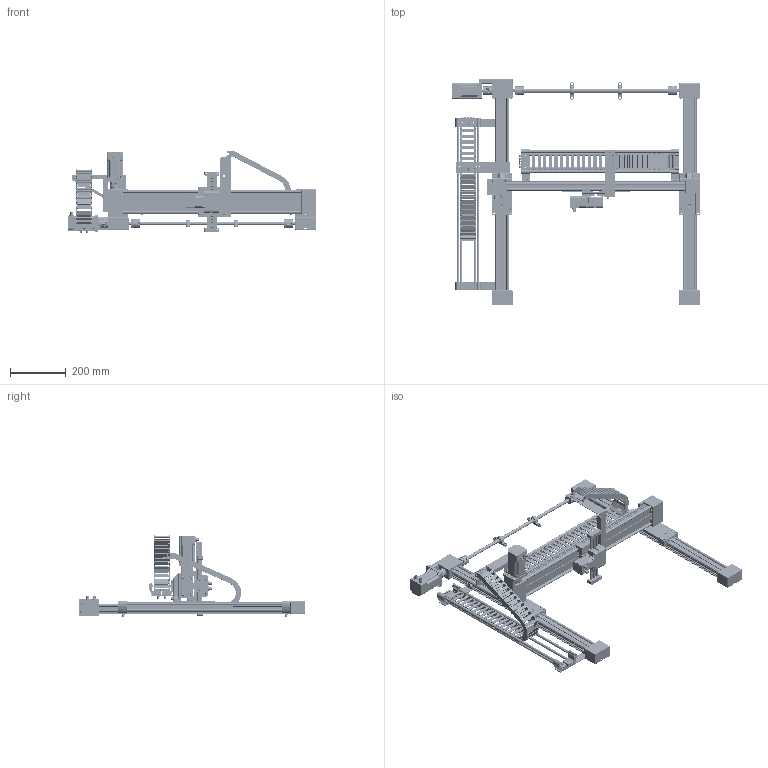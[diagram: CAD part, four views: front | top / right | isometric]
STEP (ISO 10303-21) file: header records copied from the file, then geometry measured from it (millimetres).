
FILE_DESCRIPTION(/* description */ (''),/* implementation_level */ '2;1');
FILE_NAME(/* name */ 'C:\Users\CKoch\OneDrive - igus GmbH\Christoph Koch\Produktmanagement\LCA_Portale\PACKS\vereinfachte Steps\PACK.DLE.RG.0001.500.500.100_e-ketten_vereinfacht.stp',/* time_stamp */ '2023-05-05T15:28:46+02:00',/* author */ ('ckoch'),/* organization */ (''),/* preprocessor_version */ 'ST-DEVELOPER v18.1',/* originating_system */ 'Autodesk Inventor 2022',/* authorisation */ '');
FILE_SCHEMA (('AUTOMOTIVE_DESIGN { 1 0 10303 214 3 1 1 }'));
Products named in the file (15): PACK.DLE.RG.0001.500.500.100_e-ketten_vereinfacht; D00465203; Dummy_9TT.2.1; Dummy_920.148.TT.021_tube-trough_ X-Mitnehmer; D00036878.ipt; D00036729.ipt; Dummy_9TT.1.1.H.SLS_E2i.15.50; Dummy_9TT.1.1.FP.SLS_E2i.15.50; D00465186.ipt; Dummy_9TT.1.2.FP.SLS_E2i.15.50; Dummy_9TT.1.2.H.SLS_E2i.15.50; D00465188.ipt; Dummy_9TT.3.1; Dummy_E2i_15_50_048_0_X-Achse_DLE-RG-0001-500-500-100; Dummy_E2i_15_50_048_0_Y-Achse_DLE-RG-0001-500-500-100
Assembly tree (22 placements, depth 3):
  PACK.DLE.RG.0001.500.500.100_e-ketten_vereinfacht
    D00465203
    Dummy_9TT.2.1
      Dummy_920.148.TT.021_tube-trough_ X-Mitnehmer
      D00036878.ipt  x2
      D00036729.ipt  x2
    Dummy_9TT.1.1.H.SLS_E2i.15.50
    Dummy_9TT.1.1.FP.SLS_E2i.15.50
    D00465186.ipt  x4
    Dummy_9TT.1.2.FP.SLS_E2i.15.50
    Dummy_9TT.1.2.H.SLS_E2i.15.50
    D00465188.ipt  x4
    Dummy_9TT.3.1
    Dummy_E2i_15_50_048_0_X-Achse_DLE-RG-0001-500-500-100
    Dummy_E2i_15_50_048_0_Y-Achse_DLE-RG-0001-500-500-100
Bounding box: 890 x 811.5 x 292.8 mm (x, y, z)
Volume: 4479292 mm3; surface area: 3127369.4 mm2
Topology: 429 solids, 444 shells, 22876 faces, 60931 edges, 39511 vertices
Faces by surface type: plane 12759, cylinder 7002, cone 984, bspline 851, torus 776, sphere 504
Full cylindrical faces by diameter (mm): 1 x39, 1.3 x4, 1.8 x184, 2 x36, 2.013 x11, 2.1 x4, 2.459 x13, 2.5 x24, 2.75 x8, 2.8 x12, 2.9 x4, 3 x29, 3.2 x25, 3.242 x36, 3.4 x10, 3.459 x8, 4 x44, 4.018 x8, 4.1 x4, 4.134 x36, 4.2 x20, 4.3 x8, 4.459 x4, 4.5 x16, 4.9 x4, 4.917 x52, 5 x116, 5.3 x8, 5.4 x8, 5.5 x60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
Entity records: 725457 total; most frequent: CARTESIAN_POINT 148547, ORIENTED_EDGE 120278, DIRECTION 118370, EDGE_CURVE 60139, AXIS2_PLACEMENT_3D 40158, VERTEX_POINT 39435, LINE 38054, VECTOR 38054
